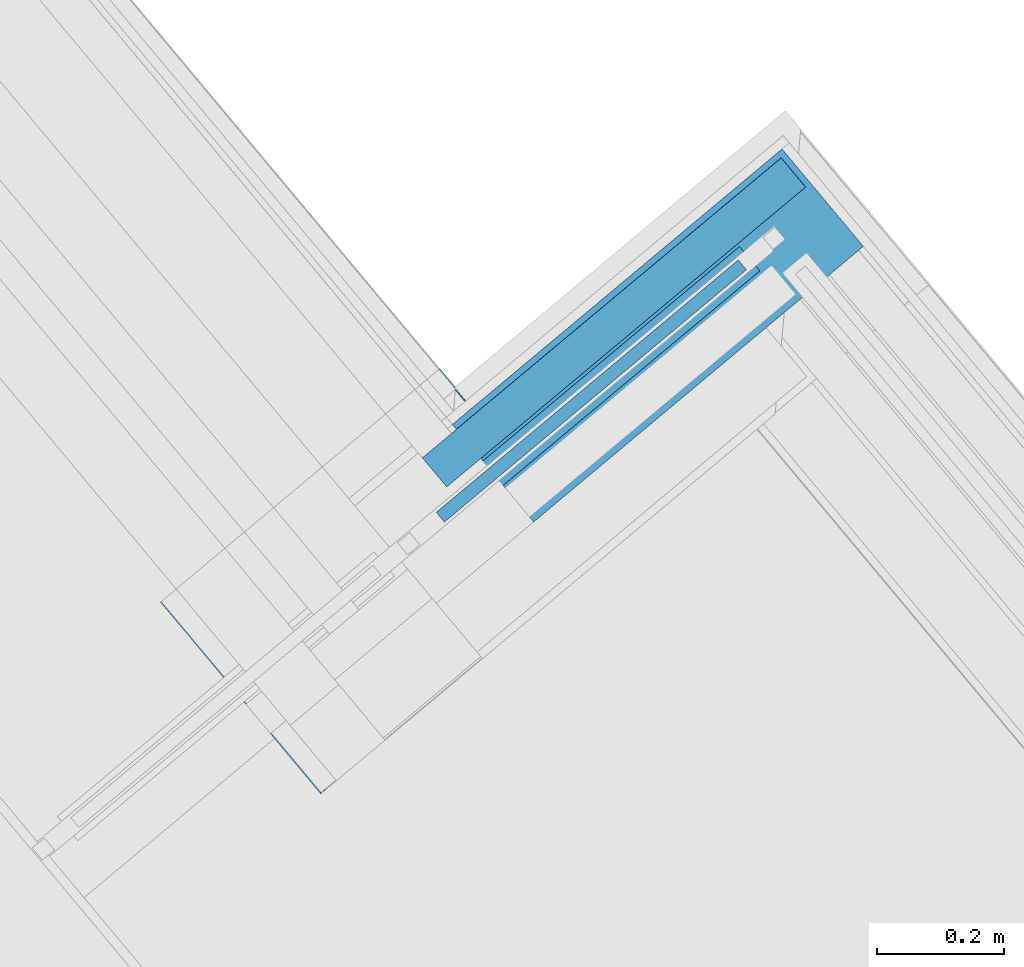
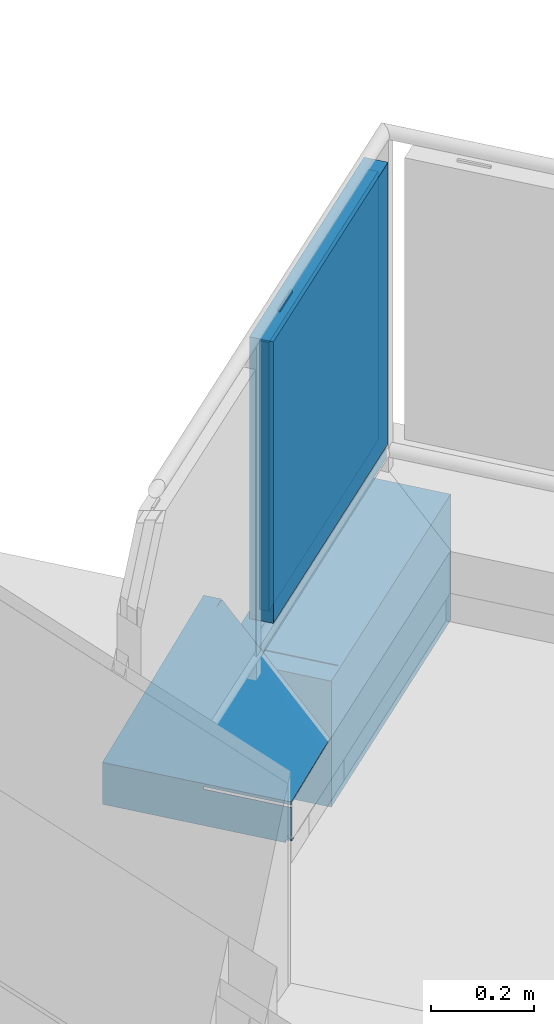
# One storey, part 49 of 58: 5 building element parts, 3 elements without a shape of their own.
"""IFC4 building model written with IfcOpenShell, lengths in metres."""

from ifc_helpers import new_model, entity, si_unit, converted_unit, derived_unit, direction, frame, origin_with_axes, place, context, subcontext, project, spatial, polygons, material, type_object, element, aggregate, save


model = new_model("IFC4")

# Units and contexts
model_context = context("Model", 3, precision=1e-05, world=origin_with_axes(), true_north=direction((0.0, 1.0)))
body_context = subcontext(model_context, "Body", "Model", "MODEL_VIEW")
ifc_project = project(units=[si_unit("LENGTHUNIT", "METRE"), si_unit("AREAUNIT", "SQUARE_METRE"), si_unit("VOLUMEUNIT", "CUBIC_METRE"), converted_unit("PLANEANGLEUNIT", "DEGREE", entity("IfcPlaneAngleMeasure", 0.0174532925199), si_unit("PLANEANGLEUNIT", "RADIAN"), dimensions=[0, 0, 0, 0, 0, 0, 0]), converted_unit("TIMEUNIT", "Year", entity("IfcTimeMeasure", 31556926.0), si_unit("TIMEUNIT", "SECOND"), dimensions=[0, 0, 1, 0, 0, 0, 0]), si_unit("MASSUNIT", "GRAM", prefix="KILO"), si_unit("THERMODYNAMICTEMPERATUREUNIT", "DEGREE_CELSIUS"), si_unit("LUMINOUSINTENSITYUNIT", "LUMEN"), si_unit("ENERGYUNIT", "JOULE", prefix="MEGA"), derived_unit("THERMALCONDUCTANCEUNIT", [(si_unit("POWERUNIT", "WATT"), 1), (si_unit("LENGTHUNIT", "METRE"), -1), (si_unit("THERMODYNAMICTEMPERATUREUNIT", "KELVIN"), -1)]), derived_unit("SPECIFICHEATCAPACITYUNIT", [(si_unit("ENERGYUNIT", "JOULE"), 1), (si_unit("MASSUNIT", "GRAM", prefix="KILO"), -1), (si_unit("THERMODYNAMICTEMPERATUREUNIT", "KELVIN"), -1)]), derived_unit("MASSDENSITYUNIT", [(si_unit("MASSUNIT", "GRAM", prefix="KILO"), 1), (si_unit("VOLUMEUNIT", "CUBIC_METRE"), -1)])], contexts=[model_context])

# Site, building, storey
site_placement = place(None, frame((-0.00153261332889, -0.00661245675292, 0.0), z_axis=(0.0, 0.0, 1.0), x_axis=(1.0, 0.0, 0.0)))
site = spatial("IfcSite", under=ifc_project, at=site_placement, Name="Site", CompositionType="ELEMENT")
building_placement = place(site_placement, origin_with_axes())
building = spatial("IfcBuilding", under=site, at=building_placement, Name="Building", CompositionType="ELEMENT")
storey_placement = place(building_placement, frame((0.0, 0.0, 5.7), z_axis=(0.0, 0.0, 1.0), x_axis=(1.0, 0.0, 0.0)))
storey = spatial("IfcBuildingStorey", under=building, at=storey_placement, Name="DG1", CompositionType="ELEMENT", Elevation=5.7)

# Wall, building element part
wall_type_1 = type_object("IfcWallType", Name="Bauteil - Attika Terrasse 1.DG 574 x 410", PredefinedType="NOTDEFINED")
wall_1_placement = place(storey_placement, frame((9.8973799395, 25.5957671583, -0.2), z_axis=(0.0, 0.0, 1.0), x_axis=(0.641209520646, -0.767365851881, 0.0)))
wall_1 = element("IfcWall", 1, at=wall_1_placement, inside=storey, type_object=wall_type_1, Name="Wand-003", PredefinedType="NOTDEFINED")
ifc_material_1 = material(Name="Stahl")
building_element_part_1_placement = place(wall_1_placement, origin_with_axes())
building_element_part_1 = element("IfcBuildingElementPart", 2, at=building_element_part_1_placement, material=ifc_material_1, Name="Stahl", PredefinedType="NOTDEFINED", context=body_context, shape_type="Tessellation", body=[
    polygons([(0.392247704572, -0.332051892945, 0.499999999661), (0.393601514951, -0.332051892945, 0.499999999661), (0.393601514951, -0.330698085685, 0.499999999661), (0.392247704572, -0.330698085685, 0.499999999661), (0.391162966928, -0.332051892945, 0.499999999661), (0.389248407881, -0.332051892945, 0.499999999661), (0.38342770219, -0.332051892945, 0.505820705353), (0.384431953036, -0.332051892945, 0.506731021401), (0.392247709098, -0.332051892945, 0.506731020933), (0.392247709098, -0.332051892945, 0.50905023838), (0.392247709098, -0.332051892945, 0.509099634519), (0.392247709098, -0.332051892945, 0.511361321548), (0.392247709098, -0.332051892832, 0.511410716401), (0.392247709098, -0.332051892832, 0.519224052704), (0.392247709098, -0.332051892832, 0.519273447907), (0.392247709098, -0.332051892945, 0.559999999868), (0.392247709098, -0.332051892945, 0.567947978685), (0.392247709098, -0.332051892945, 0.573880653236), (0.392247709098, -0.332051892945, 0.575576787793), (0.392247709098, -0.332051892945, 0.575979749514), (0.391553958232, -0.332051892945, 0.575979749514), (0.38000056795, -0.332051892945, 0.575979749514), (0.269946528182, -0.332051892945, 0.575979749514), (0.209857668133, -0.332051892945, 0.575979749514), (0.209857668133, -0.332051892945, 0.579822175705), (0.209857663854, -0.332051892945, 0.581921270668), (0.391761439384, -0.332051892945, 0.581921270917), (0.392247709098, -0.332051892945, 0.581921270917), (0.392247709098, -0.332051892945, 0.584015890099), (0.392247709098, -0.332051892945, 0.586106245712), (0.392247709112, -0.332051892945, 0.587937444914), (0.392247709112, -0.332051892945, 0.589243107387), (0.0, -0.332051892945, 0.589243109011), (0.0, -0.332051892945, 0.489652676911), (0.380000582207, -0.332051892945, 0.489652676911), (0.380000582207, -0.332051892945, 0.49660417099), (0.392644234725, -0.332051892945, 0.49660417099), (0.393601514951, -0.332051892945, 0.497561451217), (0.393601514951, -0.330698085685, 0.497561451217), (0.380000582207, -0.330698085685, 0.49660417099), (0.380000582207, -0.330698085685, 0.491006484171), (0.0, -0.330698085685, 0.491006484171), (0.0, -0.330698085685, 0.587937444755), (0.392247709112, -0.330698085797, 0.587937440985), (0.392247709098, -0.330698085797, 0.586106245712), (0.392247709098, -0.330698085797, 0.584015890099), (0.392247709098, -0.330698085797, 0.581921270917), (0.391761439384, -0.330698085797, 0.581921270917), (0.209857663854, -0.330698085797, 0.581921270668), (0.209857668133, -0.330698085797, 0.579822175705), (0.209857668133, -0.330698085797, 0.575979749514), (0.269946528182, -0.330698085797, 0.575979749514), (0.38000056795, -0.330698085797, 0.575979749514), (0.391553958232, -0.330698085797, 0.575979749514), (0.392247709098, -0.330698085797, 0.575979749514), (0.392247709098, -0.330698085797, 0.575576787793), (0.392247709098, -0.330698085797, 0.573880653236), (0.392247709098, -0.330698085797, 0.567947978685), (0.392247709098, -0.330698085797, 0.559999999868), (0.392247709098, -0.330698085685, 0.519273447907), (0.392247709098, -0.330698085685, 0.519224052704), (0.392247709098, -0.330698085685, 0.511410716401), (0.392247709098, -0.330698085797, 0.511361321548), (0.392247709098, -0.330698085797, 0.509099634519), (0.392247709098, -0.330698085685, 0.50905023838), (0.392247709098, -0.330698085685, 0.506731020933), (0.384431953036, -0.330698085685, 0.506731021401), (0.38342770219, -0.330698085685, 0.505820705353), (0.389248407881, -0.330698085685, 0.499999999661), (0.391162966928, -0.330698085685, 0.499999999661), (0.392644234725, -0.330698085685, 0.49660417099), (0.392247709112, -0.112227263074, 0.595846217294), (0.392247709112, -0.149648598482, 0.595846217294), (0.0407240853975, 0.201855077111, 0.608570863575), (0.0401131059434, 0.202731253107, 0.608602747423), (0.0399067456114, 0.202731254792, 0.608602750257), (0.0386406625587, 0.202731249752, 0.608602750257), (0.0372932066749, 0.202731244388, 0.608602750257), (0.0372932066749, 0.204095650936, 0.60865214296), (0.0372932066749, 0.241500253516, 0.610006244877), (0.0, 0.241500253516, 0.610006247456), (0.0, -0.331094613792, 0.488695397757), (0.0, 0.241500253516, 0.510007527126), (0.0, 0.240542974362, 0.509050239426), (0.0, 0.231373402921, 0.518219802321), (0.0, 0.232283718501, 0.519224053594), (0.0, 0.240146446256, 0.51136132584), (0.0, 0.240152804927, 0.608602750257), (0.0, 0.239276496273, 0.608570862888), (0.0, -0.32288233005, 0.498822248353), (0.0, -0.321878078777, 0.497911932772), (0.380000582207, -0.331094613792, 0.488695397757), (0.380000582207, -0.323185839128, 0.49660417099), (0.380000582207, -0.325100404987, 0.49660417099), (0.392644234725, -0.325100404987, 0.49660417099), (0.393601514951, -0.324143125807, 0.497561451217), (0.393601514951, -0.32288233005, 0.498822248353), (0.0407240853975, 0.239276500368, 0.608570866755), (0.0399067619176, 0.240152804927, 0.608602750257), (0.0386406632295, 0.240152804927, 0.608602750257), (0.0372932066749, 0.240152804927, 0.608602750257), (0.0372932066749, 0.241500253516, 0.608602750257), (0.0372932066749, 0.241500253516, 0.60865214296), (0.0372932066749, 0.241500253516, 0.511361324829), (0.0372932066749, 0.241500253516, 0.510056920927), (0.0373426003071, 0.241500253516, 0.510007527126), (0.0372932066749, 0.241500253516, 0.608570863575), (0.0372932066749, 0.241500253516, 0.595846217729), (0.0372932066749, 0.241500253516, 0.587937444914), (0.0372932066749, 0.241500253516, 0.586106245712), (0.0372932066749, 0.241500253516, 0.584015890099), (0.0372932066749, 0.241500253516, 0.581921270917), (0.0372932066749, 0.241500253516, 0.57982217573), (0.0372932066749, 0.241500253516, 0.575979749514), (0.0372932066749, 0.241500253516, 0.575576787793), (0.0372932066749, 0.241500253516, 0.573880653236), (0.0372932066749, 0.241500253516, 0.567947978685), (0.0372932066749, 0.241500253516, 0.559999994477), (0.0372932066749, 0.241500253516, 0.519273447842), (0.0372932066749, 0.241500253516, 0.519224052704), (0.0372932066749, 0.241500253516, 0.511410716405), (0.0382504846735, 0.240592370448, 0.509099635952), (0.0650006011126, 0.240592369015, 0.509099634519), (0.280000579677, 0.240592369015, 0.509099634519), (0.280000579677, 0.240542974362, 0.509050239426), (0.0405615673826, 0.238182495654, 0.511410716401), (0.0386470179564, 0.238182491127, 0.511410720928), (0.0454560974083, 0.231373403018, 0.518219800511), (0.280000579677, 0.240493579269, 0.509099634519), (0.0650006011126, 0.240493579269, 0.509099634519), (0.0382504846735, 0.240493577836, 0.509099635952), (0.0372932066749, 0.239536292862, 0.510056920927), (0.0372932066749, 0.238231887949, 0.51136132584), (0.0405121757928, 0.238231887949, 0.51136132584), (0.0650006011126, 0.238231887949, 0.51136132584), (0.280000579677, 0.238231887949, 0.51136132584), (0.280000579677, 0.238182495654, 0.511410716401), (0.0650006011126, 0.238182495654, 0.511410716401), (0.0464603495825, 0.232283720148, 0.51922405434), (0.0386470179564, 0.240097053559, 0.511410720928), (0.0405615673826, 0.240097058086, 0.511410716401), (0.0650006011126, 0.240097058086, 0.511410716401), (0.280000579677, 0.240097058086, 0.511410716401), (0.280000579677, 0.240146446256, 0.51136132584), (0.0650006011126, 0.240146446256, 0.51136132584), (0.0405121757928, 0.240146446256, 0.51136132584), (0.0372932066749, 0.240146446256, 0.51136132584), (0.0372932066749, 0.240146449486, 0.511410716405), (0.0372932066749, 0.240146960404, 0.519224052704), (0.0372932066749, 0.240146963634, 0.519273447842), (0.0372932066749, 0.240149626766, 0.559999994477), (0.0372932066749, 0.240150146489, 0.567947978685), (0.0372932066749, 0.24015053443, 0.573880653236), (0.0372932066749, 0.240150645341, 0.575576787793), (0.0372932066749, 0.240150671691, 0.575979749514), (0.0372932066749, 0.240150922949, 0.57982217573), (0.0372932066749, 0.24015106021, 0.581921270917), (0.0372932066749, 0.240151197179, 0.584015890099), (0.0372932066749, 0.240151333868, 0.586106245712), (0.0372932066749, 0.240151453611, 0.587937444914), (0.0372932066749, 0.24015197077, 0.595846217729), (0.0372932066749, 0.240152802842, 0.608570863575), (0.393601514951, -0.321878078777, 0.497911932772), (0.393601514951, -0.322228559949, 0.497561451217), (0.392644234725, -0.323185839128, 0.49660417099)], [[[1, 2, 3, 4]], [[2, 1, 5, 6, 7, 8, 9, 10, 11, 12, 13, 14, 15, 16, 17, 18, 19, 20, 21, 22, 23, 24, 25, 26, 27, 28, 29, 30, 31, 32, 33, 34, 35, 36, 37, 38]], [[2, 38, 39, 3]], [[40, 41, 42, 43, 44, 45, 46, 47, 48, 49, 50, 51, 52, 53, 54, 55, 56, 57, 58, 59, 60, 61, 62, 63, 64, 65, 66, 67, 68, 69, 70, 4, 3, 39, 71]], [[5, 1, 4, 70]], [[6, 5, 70, 69]], [[7, 6, 69, 68]], [[7, 68, 67, 8]], [[9, 8, 67, 66]], [[10, 9, 66, 65]], [[11, 10, 65, 64]], [[12, 11, 64, 63]], [[13, 12, 63, 62]], [[14, 13, 62, 61]], [[15, 14, 61, 60]], [[16, 15, 60, 59]], [[17, 16, 59, 58]], [[18, 17, 58, 57]], [[19, 18, 57, 56]], [[20, 19, 56, 55]], [[21, 20, 55, 54]], [[22, 21, 54, 53]], [[22, 53, 52, 23]], [[24, 23, 52, 51]], [[24, 51, 50, 25]], [[25, 50, 49, 26]], [[27, 26, 49, 48]], [[28, 27, 48, 47]], [[29, 28, 47, 46]], [[30, 29, 46, 45]], [[31, 30, 45, 44]], [[32, 31, 44, 72, 73]], [[33, 32, 73, 74, 75, 76, 77, 78, 79, 80, 81]], [[82, 34, 33, 81, 83, 84, 85, 86, 87, 88, 89, 43, 42, 90, 91]], [[92, 35, 34, 82]], [[36, 35, 92, 93, 94, 41, 40]], [[37, 36, 40, 71]], [[38, 37, 71, 39]], [[41, 94, 95, 96, 97, 90, 42]], [[44, 43, 89, 98, 72]], [[73, 72, 98, 74]], [[74, 98, 99, 76, 75]], [[77, 76, 99, 100]], [[78, 77, 100, 101]], [[79, 78, 101, 102, 103]], [[80, 79, 103]], [[104, 105, 106, 83, 81, 80, 103, 102, 107, 108, 109, 110, 111, 112, 113, 114, 115, 116, 117, 118, 119, 120, 121]], [[84, 83, 106, 122, 123, 124, 125]], [[126, 127, 128, 85, 84, 125, 129, 130, 131, 132, 133, 134, 135, 136, 137, 138]], [[128, 139, 86, 85]], [[139, 140, 141, 142, 143, 144, 145, 146, 147, 87, 86]], [[87, 147, 148, 149, 150, 151, 152, 153, 154, 155, 156, 157, 158, 159, 160, 161, 162, 101, 88]], [[101, 100, 99, 98, 89, 88]], [[91, 90, 97, 163]], [[93, 92, 82, 91, 163, 164, 165]], [[94, 93, 165, 95]], [[96, 95, 165, 164]], [[96, 164, 163, 97]], [[101, 162, 107, 102]], [[132, 105, 104, 147, 133]], [[132, 131, 122, 106, 105]], [[162, 161, 108, 107]], [[161, 160, 109, 108]], [[160, 159, 110, 109]], [[159, 158, 111, 110]], [[158, 157, 112, 111]], [[157, 156, 113, 112]], [[156, 155, 114, 113]], [[155, 154, 115, 114]], [[154, 153, 116, 115]], [[153, 152, 117, 116]], [[152, 151, 118, 117]], [[151, 150, 119, 118]], [[150, 149, 120, 119]], [[149, 148, 121, 120]], [[148, 147, 104, 121]], [[122, 131, 130, 123]], [[129, 124, 123, 130]], [[129, 125, 124]], [[127, 126, 141, 140]], [[139, 128, 127, 140]], [[134, 133, 147, 146]], [[135, 134, 146, 145]], [[136, 135, 145, 144]], [[137, 136, 144, 143]], [[138, 137, 143, 142]], [[126, 138, 142, 141]]], closed=True),
])
aggregate(wall_1, [building_element_part_1])

# Wall, building element parts
wall_type_2 = type_object("IfcWallType", Name="Bauteil - Attika Balkon 356 x 610", PredefinedType="NOTDEFINED")
wall_2_placement = place(storey_placement, frame((10.0769189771, 25.3809042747, -0.2), z_axis=(0.0, 0.0, 1.0), x_axis=(0.767365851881, 0.641209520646, 0.0)))
wall_2 = element("IfcWall", 3, at=wall_2_placement, inside=storey, type_object=wall_type_2, Name="Wand-003", PredefinedType="NOTDEFINED")
ifc_material_2 = material(Name="Vollholz")
building_element_part_2_placement = place(wall_2_placement, origin_with_axes())
building_element_part_2 = element("IfcBuildingElementPart", 4, at=building_element_part_2_placement, material=ifc_material_2, Name="Vollholz", PredefinedType="NOTDEFINED", context=body_context, shape_type="Tessellation", body=[
    polygons([(0.130124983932, 0.189996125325, 0.584015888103), (0.189984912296, 0.189984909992, 0.586106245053), (0.866914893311, 0.189984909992, 0.586106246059), (0.866926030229, 0.189996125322, 0.584015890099), (0.866937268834, 0.190007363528, 0.581921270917), (0.866948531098, 0.190018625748, 0.57982217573), (0.866971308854, 0.190041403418, 0.575576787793), (0.867054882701, 0.190124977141, 0.559999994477), (0.130124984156, 0.190124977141, 0.559999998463), (0.130124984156, 0.190082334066, 0.567947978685), (0.130124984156, 0.190050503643, 0.573880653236), (0.130124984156, 0.190041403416, 0.575576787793), (0.130124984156, 0.190039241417, 0.575979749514), (0.130124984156, 0.190018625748, 0.57982217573), (0.130124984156, 0.190007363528, 0.581921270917), (0.130124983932, 0.130124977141, 0.584015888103), (0.866925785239, 0.130124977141, 0.584015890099), (0.866937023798, 0.130124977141, 0.581921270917), (0.866948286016, 0.130124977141, 0.57982217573), (0.866971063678, 0.130124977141, 0.575576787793), (0.867054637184, 0.130124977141, 0.559999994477), (0.130124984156, 0.130124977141, 0.559999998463), (0.130124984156, 0.130124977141, 0.567947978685), (0.130124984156, 0.130124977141, 0.573880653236), (0.130124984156, 0.130124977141, 0.575576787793), (0.130124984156, 0.130124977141, 0.575979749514), (0.130124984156, 0.130124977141, 0.57982217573), (0.130124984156, 0.130124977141, 0.581921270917)], [[[1, 2, 3, 4, 5, 6, 7, 8, 9, 10, 11, 12, 13, 14, 15]], [[16, 2, 1]], [[2, 16, 17, 3]], [[3, 17, 4]], [[17, 18, 5, 4]], [[6, 5, 18, 19]], [[19, 20, 7, 6]], [[21, 8, 7, 20]], [[9, 8, 21, 22]], [[22, 23, 10, 9]], [[24, 11, 10, 23]], [[24, 25, 12, 11]], [[25, 26, 13, 12]], [[14, 13, 26, 27]], [[27, 28, 15, 14]], [[16, 1, 15, 28]], [[21, 20, 19, 18, 17, 16, 28, 27, 26, 25, 24, 23, 22]]], closed=True),
])
ifc_material_3 = material(Name="Stahlbeton")
building_element_part_3_placement = place(wall_2_placement, origin_with_axes())
building_element_part_3 = element("IfcBuildingElementPart", 5, at=building_element_part_3_placement, material=ifc_material_3, Name="Stahlbeton", PredefinedType="NOTDEFINED", context=body_context, shape_type="Tessellation", body=[
    polygons([(0.19999996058, 0.19999996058, 0.499999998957), (0.19999996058, 1.05296926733e-09, 0.499999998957), (0.876929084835, 1.05296926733e-09, 0.500000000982), (0.876929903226, 0.19999996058, 0.500000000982), (0.19999996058, 1.05296926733e-09, 0.498915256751), (0.19999996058, 0.19999996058, 0.498915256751), (0.19999996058, 1.05296926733e-09, 0.498822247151), (0.19999996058, 1.05296926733e-09, 0.496604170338), (0.19999996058, 1.05296926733e-09, 0.49100648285), (0.19999996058, 1.05296926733e-09, 0.488695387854), (0.19999996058, 1.05296926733e-09, 0.335), (0.876929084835, 1.05296926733e-09, 0.334999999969), (0.876929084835, 1.05296926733e-09, 0.496604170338), (0.876929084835, 1.05296926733e-09, 0.498915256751), (0.876929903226, 0.19999996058, 0.498915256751), (0.876929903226, 0.19999996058, 0.496604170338), (0.876929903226, 0.19999996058, 0.334999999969), (0.876929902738, 0.19999996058, 0.2), (0.19999996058, 0.19999996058, 0.2), (0.19999996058, 0.19999996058, 0.335), (0.19999996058, 0.19999996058, 0.488695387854), (0.19999996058, 0.19999996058, 0.49100648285), (0.19999996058, 0.19999996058, 0.496604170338), (0.19999996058, 0.19999996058, 0.498822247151), (0.19999996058, 1.05296926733e-09, 0.2), (0.876929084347, 1.05297104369e-09, 0.2)], [[[1, 2, 3, 4]], [[5, 2, 1, 6]], [[2, 5, 7, 8, 9, 10, 11, 12, 13, 14, 3]], [[4, 3, 14, 15]], [[6, 1, 4, 15, 16, 17, 18, 19, 20, 21, 22, 23, 24]], [[5, 6, 24, 7]], [[7, 24, 23, 8]], [[8, 23, 22, 9]], [[9, 22, 21, 10]], [[10, 21, 20, 11]], [[11, 25, 26, 12]], [[16, 13, 12, 17]], [[15, 14, 13, 16]], [[17, 12, 26, 18]], [[25, 19, 18, 26]], [[11, 20, 19, 25]]], closed=True),
])
aggregate(wall_2, [building_element_part_2, building_element_part_3])

# Railing, building element parts
railing_type = type_object("IfcRailingType", Name="Geländerart", PredefinedType="NOTDEFINED")
railing_placement = place(storey_placement, frame((13.1317464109, 20.5971564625, 0.38), z_axis=(0.0, 0.0, 1.0), x_axis=(1.0, 0.0, 0.0)))
railing = element("IfcRailing", 6, at=railing_placement, inside=storey, type_object=railing_type, Name="Geländer - 001", PredefinedType="NOTDEFINED")
ifc_material_4 = material(Name="Profilit")
building_element_part_4_placement = place(railing_placement, origin_with_axes())
building_element_part_4 = element("IfcBuildingElementPart", 7, at=building_element_part_4_placement, material=ifc_material_4, Name="Profilit", PredefinedType="NOTDEFINED", context=body_context, shape_type="Tessellation", body=[
    polygons([(-3.04204542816, 4.91171277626, 0.135), (-2.56622087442, 5.30931091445, 0.135), (-2.56622087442, 5.30931091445, 0.775), (-3.04204542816, 4.91171277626, 0.775), (-2.57904506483, 5.32465823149, 0.135), (-3.05486961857, 4.9270600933, 0.135), (-2.57904506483, 5.32465823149, 0.775), (-3.05486961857, 4.9270600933, 0.775)], [[[1, 2, 3, 4]], [[5, 2, 1, 6]], [[7, 3, 2, 5]], [[4, 3, 7, 8]], [[1, 4, 8, 6]], [[7, 5, 6, 8]]], closed=True),
])
ifc_material_5 = material(Name="Aluminium")
building_element_part_5_placement = place(railing_placement, origin_with_axes())
building_element_part_5 = element("IfcBuildingElementPart", 8, at=building_element_part_5_placement, material=ifc_material_5, Name="Aluminium", PredefinedType="NOTDEFINED", context=body_context, shape_type="Tessellation", body=[
    polygons([(-2.63625604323, 5.26056334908, 0.12), (-2.68997165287, 5.21567868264, 0.12), (-2.68997165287, 5.21567868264, 0.095), (-2.63625604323, 5.26056334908, 0.095), (-2.63946209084, 5.26440017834, 0.12), (-2.69317770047, 5.2195155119, 0.12), (-2.69317770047, 5.2195155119, 0.095), (-2.63946209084, 5.26440017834, 0.095)], [[[1, 2, 3, 4]], [[5, 6, 2, 1]], [[2, 6, 7, 3]], [[4, 3, 7, 8]], [[1, 4, 8, 5]], [[8, 7, 6, 5]]], closed=True),
    polygons([(-2.98162840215, 4.97197082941, 0.79), (-2.92791279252, 5.01685549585, 0.79), (-2.92791279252, 5.01685549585, 0.795), (-2.98162840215, 4.97197082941, 0.795), (-2.98483444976, 4.97580765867, 0.79), (-2.93111884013, 5.02069232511, 0.79), (-2.93111884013, 5.02069232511, 0.795), (-2.98483444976, 4.97580765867, 0.795)], [[[1, 2, 3, 4]], [[5, 6, 2, 1]], [[2, 6, 7, 3]], [[4, 3, 7, 8]], [[1, 4, 8, 5]], [[8, 7, 6, 5]]], closed=True),
    polygons([(-2.57715271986, 5.34578686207, 0.12), (-2.54509224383, 5.30741856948, 0.12), (-3.04393777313, 4.89058414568, 0.12), (-3.07599824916, 4.92895243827, 0.12), (-2.5925000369, 5.33296267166, 0.14), (-2.58288189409, 5.32145218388, 0.14), (-2.57904506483, 5.32465823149, 0.135), (-2.56622087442, 5.30931091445, 0.135), (-2.57005770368, 5.30610486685, 0.14), (-2.56043956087, 5.29459437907, 0.14), (-3.02859045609, 4.90340833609, 0.14), (-3.02859045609, 4.90340833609, 0.77), (-2.56043956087, 5.29459437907, 0.77), (-2.56043956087, 5.29459437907, 0.14), (-2.54509224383, 5.30741856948, 0.12), (-2.54509224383, 5.30741856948, 0.79), (-3.04393777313, 4.89058414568, 0.79), (-3.07599824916, 4.92895243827, 0.79), (-2.57715271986, 5.34578686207, 0.79), (-2.57715271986, 5.34578686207, 0.12), (-2.5925000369, 5.33296267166, 0.14), (-2.5925000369, 5.33296267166, 0.77), (-3.06065093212, 4.94177662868, 0.77), (-3.06065093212, 4.94177662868, 0.14), (-3.05103278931, 4.93026614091, 0.14), (-3.05103278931, 4.93026614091, 0.77), (-2.58288189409, 5.32145218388, 0.77), (-2.58288189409, 5.32145218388, 0.14), (-2.57904506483, 5.32465823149, 0.135), (-2.57904506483, 5.32465823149, 0.775), (-3.05486961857, 4.9270600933, 0.775), (-3.05486961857, 4.9270600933, 0.135), (-3.04204542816, 4.91171277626, 0.135), (-3.04204542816, 4.91171277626, 0.775), (-2.56622087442, 5.30931091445, 0.775), (-2.56622087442, 5.30931091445, 0.135), (-2.57005770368, 5.30610486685, 0.14), (-2.57005770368, 5.30610486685, 0.77), (-3.0382085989, 4.91491882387, 0.77), (-3.0382085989, 4.91491882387, 0.14)], [[[1, 2, 3, 4]], [[1, 5, 6, 7, 8, 9, 10, 2]], [[2, 10, 11, 12, 13, 14, 15, 16, 17, 3]], [[4, 3, 17, 18]], [[5, 1, 4, 18, 19, 20, 21, 22, 23, 24]], [[6, 5, 24, 25]], [[7, 6, 25, 26, 27, 28, 29, 30, 31, 32]], [[8, 7, 32, 33]], [[9, 8, 33, 34, 35, 36, 37, 38, 39, 40]], [[10, 9, 40, 11]], [[11, 40, 39, 12]], [[12, 39, 38, 13]], [[13, 38, 37, 14]], [[20, 15, 14, 37, 36, 29, 28, 21]], [[19, 16, 15, 20]], [[18, 17, 16, 19]], [[27, 22, 21, 28]], [[26, 23, 22, 27]], [[25, 24, 23, 26]], [[35, 30, 29, 36]], [[34, 31, 30, 35]], [[33, 32, 31, 34]]], closed=True),
])
aggregate(railing, [building_element_part_4, building_element_part_5])

save(model, "model.ifc")
